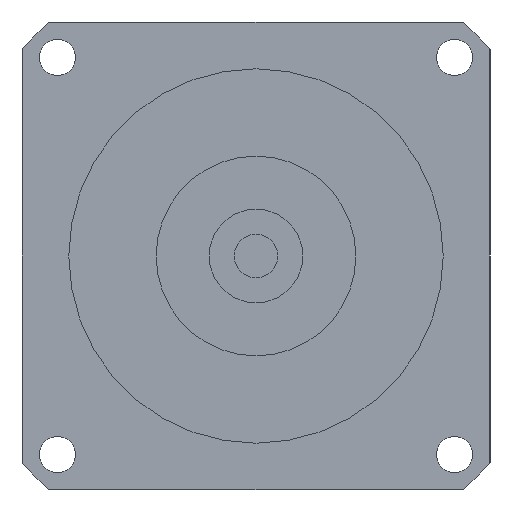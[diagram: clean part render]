
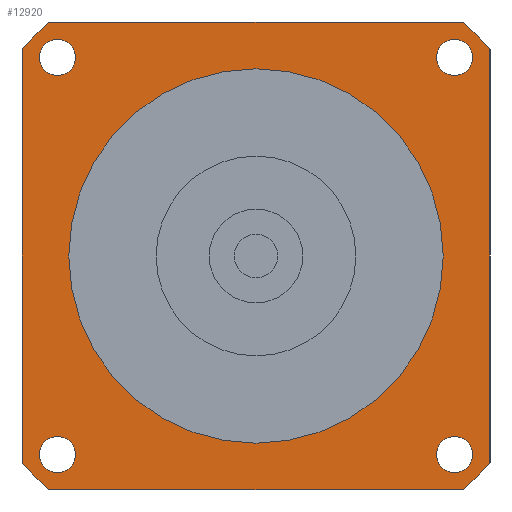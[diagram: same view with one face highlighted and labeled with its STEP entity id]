
A CAD part, left-side view. The second image highlights one B-rep face of the part: STEP entity #12920.
In plain terms, the highlighted planar face has unit normal (-1, 0, 0) as drawn and (0, 0, -1) by its records, which use the part's own axes.
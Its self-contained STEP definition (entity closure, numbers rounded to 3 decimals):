
#8680=CARTESIAN_POINT('',(33.072,-37.5,-37.));
#8690=VERTEX_POINT('',#8680);
#8740=CARTESIAN_POINT('',(37.5,-37.5,-37.));
#8750=DIRECTION('',(-1.,0.,0.));
#8760=VECTOR('',#8750,1000.);
#8770=LINE('',#8740,#8760);
#8780=CARTESIAN_POINT('',(-33.072,-37.5,-37.));
#8790=VERTEX_POINT('',#8780);
#8800=EDGE_CURVE('',#8690,#8790,#8770,.T.);
#9190=CARTESIAN_POINT('',(-31.82,-28.92,-37.));
#9200=VERTEX_POINT('',#9190);
#9230=CARTESIAN_POINT('',(-31.82,-31.82,-37.));
#9240=DIRECTION('',(0.,0.,-1.));
#9250=DIRECTION('',(0.,-1.,0.));
#9260=AXIS2_PLACEMENT_3D('',#9230,#9240,#9250);
#9270=CIRCLE('',#9260,2.9);
#9280=CARTESIAN_POINT('',(-31.82,-34.72,-37.));
#9290=VERTEX_POINT('',#9280);
#9300=EDGE_CURVE('',#9290,#9200,#9270,.T.);
#11420=CARTESIAN_POINT('',(0.,-30.,-37.));
#11430=VERTEX_POINT('',#11420);
#11460=CARTESIAN_POINT('',(0.,0.,
-37.));
#11470=DIRECTION('',(0.,0.,1.));
#11480=DIRECTION('',(1.,0.,0.));
#11490=AXIS2_PLACEMENT_3D('',#11460,#11470,#11480);
#11500=CIRCLE('',#11490,30.);
#11510=CARTESIAN_POINT('',(30.,0.,-37.));
#11520=VERTEX_POINT('',#11510);
#11530=EDGE_CURVE('',#11430,#11520,#11500,.T.);
#11550=CARTESIAN_POINT('',(0.,30.,-37.));
#11560=VERTEX_POINT('',#11550);
#11570=EDGE_CURVE('',#11520,#11560,#11500,.T.);
#11700=CARTESIAN_POINT('',(37.5,-37.5,-37.));
#11710=DIRECTION('',(0.,0.,-1.));
#11720=DIRECTION('',(0.,-1.,0.));
#11730=AXIS2_PLACEMENT_3D('',#11700,#11710,#11720);
#11740=PLANE('',#11730);
#11750=CARTESIAN_POINT('',(-31.82,31.82,-37.));
#11760=DIRECTION('',(0.,0.,-1.));
#11770=DIRECTION('',(-1.,0.,0.));
#11780=AXIS2_PLACEMENT_3D('',#11750,#11760,#11770);
#11790=CIRCLE('',#11780,2.9);
#11800=CARTESIAN_POINT('',(-34.72,31.82,-37.));
#11810=VERTEX_POINT('',#11800);
#11820=CARTESIAN_POINT('',(-28.92,31.82,-37.));
#11830=VERTEX_POINT('',#11820);
#11840=EDGE_CURVE('',#11810,#11830,#11790,.T.);
#11850=ORIENTED_EDGE('',*,*,#11840,.F.);
#11860=EDGE_CURVE('',#11830,#11810,#11790,.T.);
#11870=ORIENTED_EDGE('',*,*,#11860,.F.);
#11880=EDGE_LOOP('',(#11870,#11850));
#11890=FACE_BOUND('',#11880,.T.);
#11900=CARTESIAN_POINT('',(31.82,31.82,-37.));
#11910=DIRECTION('',(0.,0.,-1.));
#11920=DIRECTION('',(0.,1.,0.));
#11930=AXIS2_PLACEMENT_3D('',#11900,#11910,#11920);
#11940=CIRCLE('',#11930,2.9);
#11950=CARTESIAN_POINT('',(31.82,34.72,-37.));
#11960=VERTEX_POINT('',#11950);
#11970=CARTESIAN_POINT('',(31.82,28.92,-37.));
#11980=VERTEX_POINT('',#11970);
#11990=EDGE_CURVE('',#11960,#11980,#11940,.T.);
#12000=ORIENTED_EDGE('',*,*,#11990,.F.);
#12010=EDGE_CURVE('',#11980,#11960,#11940,.T.);
#12020=ORIENTED_EDGE('',*,*,#12010,.F.);
#12030=EDGE_LOOP('',(#12020,#12000));
#12040=FACE_BOUND('',#12030,.T.);
#12050=CARTESIAN_POINT('',(31.82,-31.82,-37.));
#12060=DIRECTION('',(0.,0.,-1.));
#12070=DIRECTION('',(1.,0.,0.));
#12080=AXIS2_PLACEMENT_3D('',#12050,#12060,#12070);
#12090=CIRCLE('',#12080,2.9);
#12100=CARTESIAN_POINT('',(34.72,-31.82,-37.));
#12110=VERTEX_POINT('',#12100);
#12120=CARTESIAN_POINT('',(28.92,-31.82,-37.));
#12130=VERTEX_POINT('',#12120);
#12140=EDGE_CURVE('',#12110,#12130,#12090,.T.);
#12150=ORIENTED_EDGE('',*,*,#12140,.F.);
#12160=EDGE_CURVE('',#12130,#12110,#12090,.T.);
#12170=ORIENTED_EDGE('',*,*,#12160,.F.);
#12180=EDGE_LOOP('',(#12170,#12150));
#12190=FACE_BOUND('',#12180,.T.);
#12200=EDGE_CURVE('',#11560,#11430,#11500,.T.);
#12210=ORIENTED_EDGE('',*,*,#12200,.T.);
#12220=ORIENTED_EDGE('',*,*,#11570,.T.);
#12230=ORIENTED_EDGE('',*,*,#11530,.T.);
#12240=EDGE_LOOP('',(#12230,#12220,#12210));
#12250=FACE_BOUND('',#12240,.T.);
#12260=CARTESIAN_POINT('',(37.5,37.5,-37.));
#12270=DIRECTION('',(0.,-1.,0.));
#12280=VECTOR('',#12270,1000.);
#12290=LINE('',#12260,#12280);
#12300=CARTESIAN_POINT('',(37.5,33.072,-37.));
#12310=VERTEX_POINT('',#12300);
#12320=CARTESIAN_POINT('',(37.5,-33.072,-37.));
#12330=VERTEX_POINT('',#12320);
#12340=EDGE_CURVE('',#12310,#12330,#12290,.T.);
#12350=ORIENTED_EDGE('',*,*,#12340,.T.);
#12360=CARTESIAN_POINT('',(0.,0.,
-37.));
#12370=DIRECTION('',(0.,0.,-1.));
#12380=DIRECTION('',(0.,-1.,0.));
#12390=AXIS2_PLACEMENT_3D('',#12360,#12370,#12380);
#12400=CIRCLE('',#12390,50.);
#12410=CARTESIAN_POINT('',(33.072,37.5,-37.));
#12420=VERTEX_POINT('',#12410);
#12430=EDGE_CURVE('',#12420,#12310,#12400,.T.);
#12440=ORIENTED_EDGE('',*,*,#12430,.T.);
#12450=CARTESIAN_POINT('',(-37.5,37.5,-37.));
#12460=DIRECTION('',(1.,0.,0.));
#12470=VECTOR('',#12460,1000.);
#12480=LINE('',#12450,#12470);
#12490=CARTESIAN_POINT('',(-33.072,37.5,-37.));
#12500=VERTEX_POINT('',#12490);
#12510=EDGE_CURVE('',#12500,#12420,#12480,.T.);
#12520=ORIENTED_EDGE('',*,*,#12510,.T.);
#12530=CARTESIAN_POINT('',(0.,0.,
-37.));
#12540=DIRECTION('',(0.,0.,-1.));
#12550=DIRECTION('',(0.,-1.,0.));
#12560=AXIS2_PLACEMENT_3D('',#12530,#12540,#12550);
#12570=CIRCLE('',#12560,50.);
#12580=CARTESIAN_POINT('',(-37.5,33.072,-37.));
#12590=VERTEX_POINT('',#12580);
#12600=EDGE_CURVE('',#12590,#12500,#12570,.T.);
#12610=ORIENTED_EDGE('',*,*,#12600,.T.);
#12620=CARTESIAN_POINT('',(-37.5,-37.5,-37.));
#12630=DIRECTION('',(0.,1.,0.));
#12640=VECTOR('',#12630,1000.);
#12650=LINE('',#12620,#12640);
#12660=CARTESIAN_POINT('',(-37.5,-33.072,-37.));
#12670=VERTEX_POINT('',#12660);
#12680=EDGE_CURVE('',#12670,#12590,#12650,.T.);
#12690=ORIENTED_EDGE('',*,*,#12680,.T.);
#12700=CARTESIAN_POINT('',(0.,0.,
-37.));
#12710=DIRECTION('',(0.,0.,-1.));
#12720=DIRECTION('',(0.,-1.,0.));
#12730=AXIS2_PLACEMENT_3D('',#12700,#12710,#12720);
#12740=CIRCLE('',#12730,50.);
#12750=EDGE_CURVE('',#8790,#12670,#12740,.T.);
#12760=ORIENTED_EDGE('',*,*,#12750,.T.);
#12770=ORIENTED_EDGE('',*,*,#8800,.T.);
#12780=CARTESIAN_POINT('',(0.,0.,
-37.));
#12790=DIRECTION('',(0.,0.,-1.));
#12800=DIRECTION('',(0.,-1.,0.));
#12810=AXIS2_PLACEMENT_3D('',#12780,#12790,#12800);
#12820=CIRCLE('',#12810,50.);
#12830=EDGE_CURVE('',#12330,#8690,#12820,.T.);
#12840=ORIENTED_EDGE('',*,*,#12830,.T.);
#12850=EDGE_LOOP('',(#12840,#12770,#12760,#12690,#12610,#12520,#12440,
#12350));
#12860=FACE_OUTER_BOUND('',#12850,.T.);
#12870=ORIENTED_EDGE('',*,*,#9300,.F.);
#12880=EDGE_CURVE('',#9200,#9290,#9270,.T.);
#12890=ORIENTED_EDGE('',*,*,#12880,.F.);
#12900=EDGE_LOOP('',(#12890,#12870));
#12910=FACE_BOUND('',#12900,.T.);
#12920=ADVANCED_FACE('',(#11890,#12040,#12190,#12250,#12860,#12910),
#11740,.T.);
